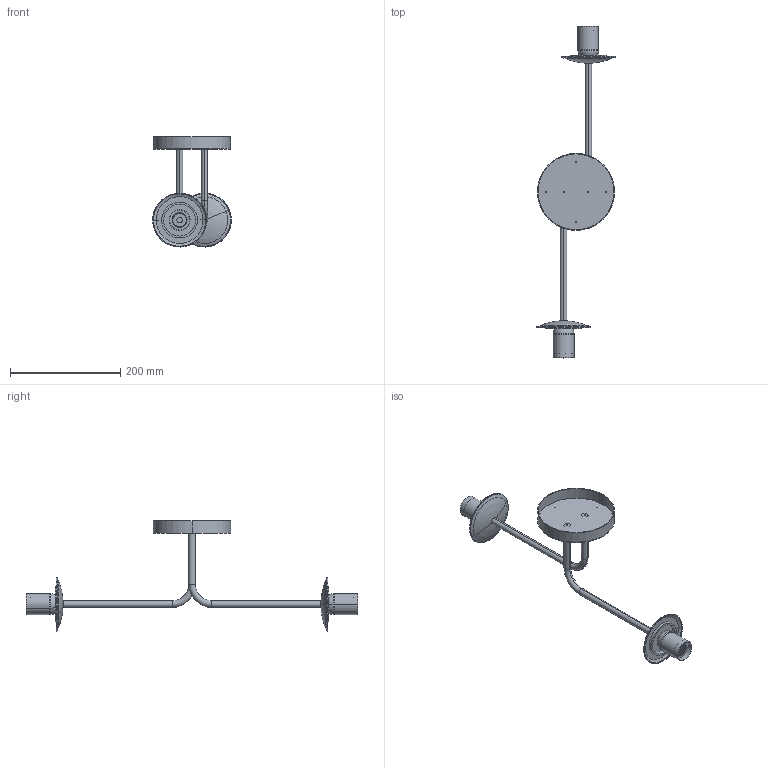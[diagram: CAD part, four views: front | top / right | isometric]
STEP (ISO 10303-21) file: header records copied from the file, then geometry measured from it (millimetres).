
FILE_DESCRIPTION (( 'STEP AP203' ), '1' );
FILE_NAME ('P3946280 - PLAFON 2 LUCES.STEP', '2026-02-13T12:33:55', ( '' ), ( '' ), 'SwSTEP 2.0', 'SolidWorks 2025', '' );
FILE_SCHEMA (( 'CONFIG_CONTROL_DESIGN' ));
Length unit declared in the file: millimetre
Products named in the file (6): P3946280 - PLAFON 2 LUCES; BaseParmaConCasquillo; Brazo_90º; Portalamparas E27 Parma; Base Parma Shifa; Base_Canopy_2Luces
Assembly tree (7 placements, depth 3):
  P3946280 - PLAFON 2 LUCES
    Base_Canopy_2Luces
    Brazo_90º  x2
    BaseParmaConCasquillo  x2
      Base Parma Shifa
      Portalamparas E27 Parma
Bounding box: 142.94 x 602.9 x 199.98 mm (x, y, z)
Volume: 239949.4 mm3; surface area: 139366.4 mm2
Topology: 7 solids, 7 shells, 159 faces, 342 edges, 212 vertices
Faces by surface type: cylinder 94, plane 33, torus 20, bspline 8, cone 4
Entity records: 4366 total; most frequent: CARTESIAN_POINT 1695, DIRECTION 463, ORIENTED_EDGE 390, AXIS2_PLACEMENT_3D 203, EDGE_CURVE 195, VERTEX_POINT 122, EDGE_LOOP 109, CIRCLE 105
